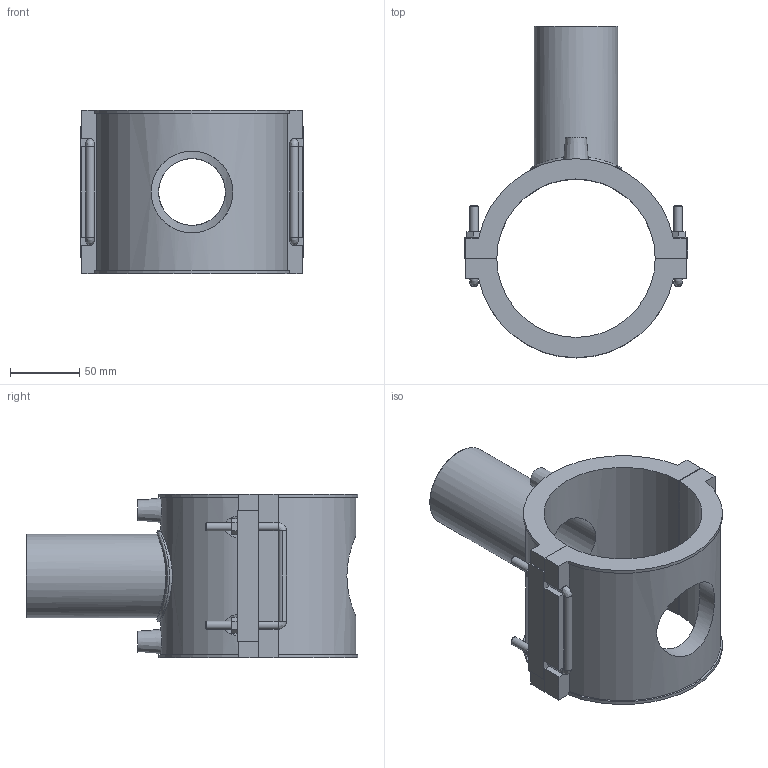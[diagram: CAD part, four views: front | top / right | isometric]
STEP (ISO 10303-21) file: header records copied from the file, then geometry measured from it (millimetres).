
FILE_DESCRIPTION(/* description */ ('PLASSON BRANCH SADDLE 4'''' x 2'''''),/* implementation_level */ '2;1');
FILE_NAME(/* name */ 'C:\Dropbox\KIMPROJECTS-Inventor 2019\99-16-3568-Processing Inch\ASTM ElectroFusion 2021\5958B-2\5958BB03040020.ipt.stp',/* time_stamp */ '2021-08-30T09:53:41+03:00',/* author */ ('KIM'),/* organization */ (''),/* preprocessor_version */ 'ST-DEVELOPER v17.2',/* originating_system */ 'Autodesk Inventor 2019',/* authorisation */ '');
FILE_SCHEMA (('AUTOMOTIVE_DESIGN { 1 0 10303 214 3 1 1 }'));
Length unit declared in the file: inch
Products named in the file (1): 5958BB03040020
Bounding box: 161 x 238.95 x 118.11 mm (x, y, z)
Volume: 750046.7 mm3; surface area: 161523.3 mm2
Topology: 1 solids, 1 shells, 135 faces, 358 edges, 227 vertices
Faces by surface type: plane 85, cylinder 34, bspline 9, cone 7
Full cylindrical faces by diameter (mm): 4 x2, 6 x8, 10 x2, 48.08 x1, 58.898 x1, 60.1 x1, 66.11 x1
Entity records: 5040 total; most frequent: CARTESIAN_POINT 1678, ORIENTED_EDGE 700, DIRECTION 658, EDGE_CURVE 350, LINE 234, VECTOR 234, VERTEX_POINT 227, AXIS2_PLACEMENT_3D 212
